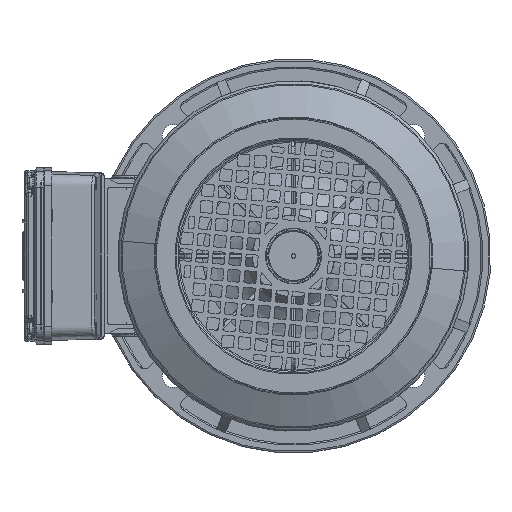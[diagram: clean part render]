
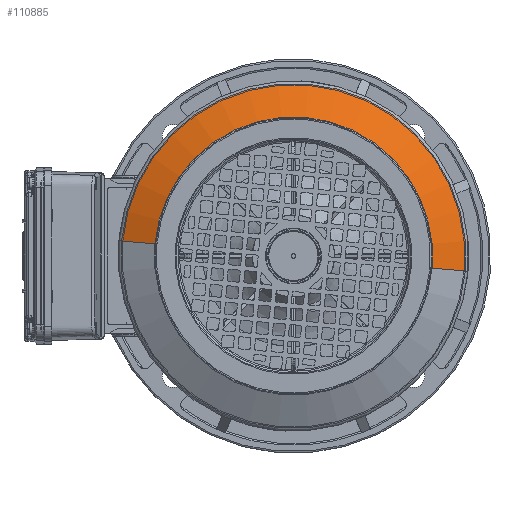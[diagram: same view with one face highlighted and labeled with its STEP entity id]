
A CAD part, left-side view. The second image highlights one B-rep face of the part: STEP entity #110885.
In plain terms, the highlighted conical face has half-angle 64 degrees and reference radius 109.315 mm.
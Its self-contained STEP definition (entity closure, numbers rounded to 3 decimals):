
#393 = CIRCLE ( 'NONE', #105799, 88.123 ) ;
#1367 = ORIENTED_EDGE ( 'NONE', *, *, #43106, .T. ) ;
#1924 = CARTESIAN_POINT ( 'NONE',  ( 0., 10.64, 0. ) ) ;
#4090 = ORIENTED_EDGE ( 'NONE', *, *, #112107, .F. ) ;
#5029 = CARTESIAN_POINT ( 'NONE',  ( -88.123, 0.304, 0. ) ) ;
#5849 = CARTESIAN_POINT ( 'NONE',  ( 0., 10.64, 0. ) ) ;
#6481 = AXIS2_PLACEMENT_3D ( 'NONE', #5849, #73673, #15594 ) ;
#7192 = CARTESIAN_POINT ( 'NONE',  ( 0., 0.304, 0. ) ) ;
#11604 = CARTESIAN_POINT ( 'NONE',  ( -109.315, 10.64, 0. ) ) ;
#11615 = CARTESIAN_POINT ( 'NONE',  ( 88.123, 0.304, 0. ) ) ;
#15594 = DIRECTION ( 'NONE',  ( -1., 0., 0. ) ) ;
#16704 = VERTEX_POINT ( 'NONE', #11615 ) ;
#16937 = DIRECTION ( 'NONE',  ( -1., 0., 0. ) ) ;
#18507 = LINE ( 'NONE', #11604, #67017 ) ;
#26737 = LINE ( 'NONE', #86007, #52513 ) ;
#31714 = DIRECTION ( 'NONE',  ( -1., 0., 0. ) ) ;
#43106 = EDGE_CURVE ( 'NONE', #16704, #96970, #26737, .T. ) ;
#52513 = VECTOR ( 'NONE', #76237, 1000. ) ;
#53660 = CONICAL_SURFACE ( 'NONE', #101592, 109.315, 1.117 ) ;
#56101 = CARTESIAN_POINT ( 'NONE',  ( -109.315, 10.64, 0. ) ) ;
#56684 = FACE_OUTER_BOUND ( 'NONE', #113594, .T. ) ;
#58748 = ORIENTED_EDGE ( 'NONE', *, *, #110476, .F. ) ;
#60200 = VERTEX_POINT ( 'NONE', #5029 ) ;
#61709 = VERTEX_POINT ( 'NONE', #56101 ) ;
#65916 = CIRCLE ( 'NONE', #6481, 109.315 ) ;
#67017 = VECTOR ( 'NONE', #89209, 1000. ) ;
#73673 = DIRECTION ( 'NONE',  ( 0., 1., 0. ) ) ;
#73936 = ORIENTED_EDGE ( 'NONE', *, *, #98462, .T. ) ;
#74986 = DIRECTION ( 'NONE',  ( 0., 1., 0. ) ) ;
#76237 = DIRECTION ( 'NONE',  ( 0.899, 0.438, 0. ) ) ;
#86007 = CARTESIAN_POINT ( 'NONE',  ( 109.315, 10.64, 0. ) ) ;
#89093 = CARTESIAN_POINT ( 'NONE',  ( 109.315, 10.64, 0. ) ) ;
#89209 = DIRECTION ( 'NONE',  ( -0.899, 0.438, 0. ) ) ;
#89686 = DIRECTION ( 'NONE',  ( 0., 1., 0. ) ) ;
#96970 = VERTEX_POINT ( 'NONE', #89093 ) ;
#98462 = EDGE_CURVE ( 'NONE', #60200, #16704, #393, .T. ) ;
#101592 = AXIS2_PLACEMENT_3D ( 'NONE', #1924, #89686, #31714 ) ;
#105799 = AXIS2_PLACEMENT_3D ( 'NONE', #7192, #74986, #16937 ) ;
#110476 = EDGE_CURVE ( 'NONE', #61709, #96970, #65916, .T. ) ;
#110885 = ADVANCED_FACE ( 'NONE', ( #56684 ), #53660, .T. ) ;
#112107 = EDGE_CURVE ( 'NONE', #60200, #61709, #18507, .T. ) ;
#113594 = EDGE_LOOP ( 'NONE', ( #73936, #1367, #58748, #4090 ) ) ;
